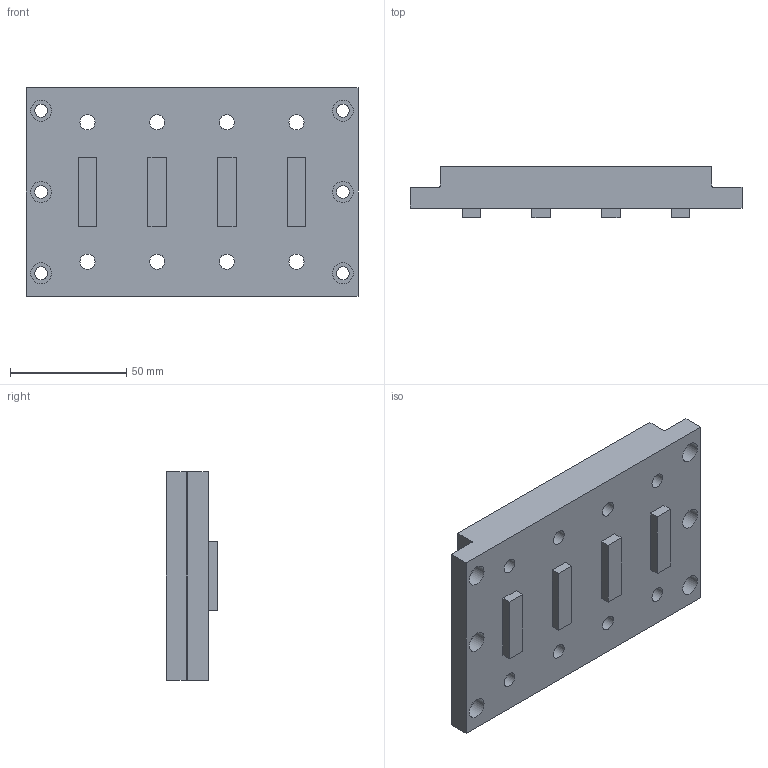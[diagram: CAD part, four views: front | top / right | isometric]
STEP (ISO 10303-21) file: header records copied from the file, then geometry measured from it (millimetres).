
FILE_DESCRIPTION(('STEP AP203'), '1');
FILE_NAME('ÒÏÏÔ1801.01.07.05.002 - Âåðõíÿÿ ïëàñòèíà', '', ('UNSPECIFIED'), ('UNSPECIFIED'), 'C3D Converter', 'C3D Toolkit', '');
FILE_SCHEMA(('CONFIG_CONTROL_DESIGN'));
Length unit declared in the file: millimetre
Products named in the file (1): ТППФ1801.01.07.05.002
Bounding box: 143 x 22 x 90 mm (x, y, z)
Volume: 206953.4 mm3; surface area: 38291 mm2
Topology: 1 solids, 1 shells, 58 faces, 138 edges, 92 vertices
Faces by surface type: plane 36, cylinder 22
Full cylindrical faces by diameter (mm): 5.5 x6, 6.5 x8, 9 x6
Entity records: 2146 total; most frequent: DIRECTION 280, CARTESIAN_POINT 269, ORIENTED_EDGE 236, EDGE_CURVE 118, EDGE_LOOP 116, AXIS2_PLACEMENT_3D 103, VERTEX_POINT 92, FACE_BOUND 76
